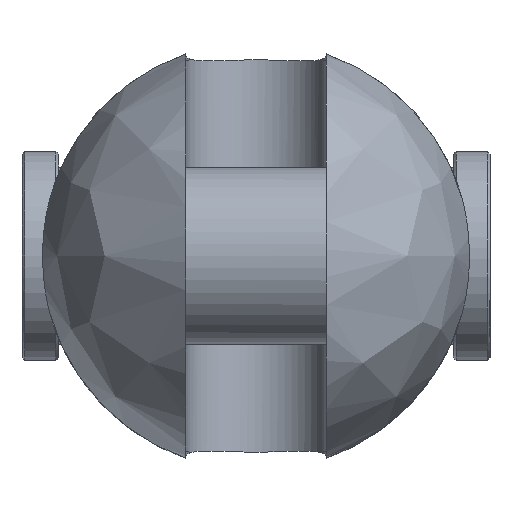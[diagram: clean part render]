
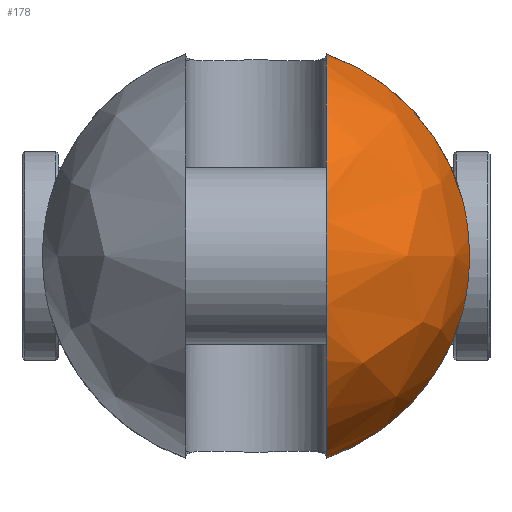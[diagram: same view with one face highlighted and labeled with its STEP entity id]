
A CAD part, left-side view. The second image highlights one B-rep face of the part: STEP entity #178.
In plain terms, the highlighted free-form (B-spline) face has degree [2, 2] with [9, 5] control points.
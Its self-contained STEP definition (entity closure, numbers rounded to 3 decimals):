
#178=ADVANCED_FACE('',(#318),#2409,.T.);
#318=FACE_OUTER_BOUND('',#478,.T.);
#478=EDGE_LOOP('',(#1189,#1190,#1191,#1192));
#1189=ORIENTED_EDGE('',*,*,#1569,.T.);
#1190=ORIENTED_EDGE('',*,*,#1597,.F.);
#1191=ORIENTED_EDGE('',*,*,#1609,.T.);
#1192=ORIENTED_EDGE('',*,*,#1589,.F.);
#1569=EDGE_CURVE('',#2242,#2241,#1976,.T.);
#1589=EDGE_CURVE('',#2242,#2254,#1986,.T.);
#1597=EDGE_CURVE('',#2261,#2241,#1987,.T.);
#1609=EDGE_CURVE('',#2261,#2254,#1782,.T.);
#1782=B_SPLINE_CURVE_WITH_KNOTS('',3,(#6079,#6080,#6081,#6082,#6083,#6084,
#6085,#6086,#6087,#6088,#6089,#6090,#6091,#6092),.UNSPECIFIED.,.F.,.F.,
(4,2,2,2,2,2,4),(0.,1.609,6.551,11.494,16.437,
21.379,22.988),.UNSPECIFIED.);
#1976=(
BOUNDED_CURVE()
B_SPLINE_CURVE(2,(#5855,#5856,#5857,#5858,#5859),.UNSPECIFIED.,.F.,.F.)
B_SPLINE_CURVE_WITH_KNOTS((3,2,3),(-121.623,-60.811,0.),
 .UNSPECIFIED.)
CURVE()
GEOMETRIC_REPRESENTATION_ITEM()
RATIONAL_B_SPLINE_CURVE((1.,0.707,1.,0.707,1.))
REPRESENTATION_ITEM('')
);
#1986=(
BOUNDED_CURVE()
B_SPLINE_CURVE(2,(#5949,#5950,#5951),.UNSPECIFIED.,.F.,.F.)
B_SPLINE_CURVE_WITH_KNOTS((3,3),(0.,39.7),.UNSPECIFIED.)
CURVE()
GEOMETRIC_REPRESENTATION_ITEM()
RATIONAL_B_SPLINE_CURVE((1.,0.885,1.))
REPRESENTATION_ITEM('')
);
#1987=(
BOUNDED_CURVE()
B_SPLINE_CURVE(2,(#6006,#6007,#6008),.UNSPECIFIED.,.F.,.F.)
B_SPLINE_CURVE_WITH_KNOTS((3,3),(0.,39.7),.UNSPECIFIED.)
CURVE()
GEOMETRIC_REPRESENTATION_ITEM()
RATIONAL_B_SPLINE_CURVE((1.,0.885,1.))
REPRESENTATION_ITEM('')
);
#2241=VERTEX_POINT('',#5739);
#2242=VERTEX_POINT('',#5740);
#2254=VERTEX_POINT('',#5752);
#2261=VERTEX_POINT('',#5759);
#2409=(
BOUNDED_SURFACE()
B_SPLINE_SURFACE(2,2,((#5453,#5454,#5455,#5456,#5457),(#5458,#5459,#5460,
#5461,#5462),(#5463,#5464,#5465,#5466,#5467),(#5468,#5469,#5470,#5471,#5472),
(#5473,#5474,#5475,#5476,#5477),(#5478,#5479,#5480,#5481,#5482),(#5483,
#5484,#5485,#5486,#5487),(#5488,#5489,#5490,#5491,#5492),(#5493,#5494,#5495,
#5496,#5497)),.UNSPECIFIED.,.T.,.F.,.F.)
B_SPLINE_SURFACE_WITH_KNOTS((3,2,2,2,3),(3,2,3),(0.,64.403,128.805,
193.208,257.611),(0.,64.403,128.805),
 .UNSPECIFIED.)
GEOMETRIC_REPRESENTATION_ITEM()
RATIONAL_B_SPLINE_SURFACE(((1.,0.707,1.,0.707,1.),
(0.707,0.5,0.707,0.5,0.707),(1.,0.707,
1.,0.707,1.),(0.707,0.5,0.707,0.5,0.707),
(1.,0.707,1.,0.707,1.),(0.707,0.5,0.707,
0.5,0.707),(1.,0.707,1.,0.707,1.),(0.707,
0.5,0.707,0.5,0.707),(1.,0.707,1.,0.707,
1.)))
REPRESENTATION_ITEM('')
SURFACE()
);
#5453=CARTESIAN_POINT('',(-59.,0.,0.));
#5454=CARTESIAN_POINT('',(-59.,41.,0.));
#5455=CARTESIAN_POINT('',(-18.,41.,0.));
#5456=CARTESIAN_POINT('',(23.,41.,0.));
#5457=CARTESIAN_POINT('',(23.,0.,0.));
#5458=CARTESIAN_POINT('',(-59.,0.,0.));
#5459=CARTESIAN_POINT('',(-59.,41.,41.));
#5460=CARTESIAN_POINT('',(-18.,41.,41.));
#5461=CARTESIAN_POINT('',(23.,41.,41.));
#5462=CARTESIAN_POINT('',(23.,0.,0.));
#5463=CARTESIAN_POINT('',(-59.,0.,0.));
#5464=CARTESIAN_POINT('',(-59.,0.,41.));
#5465=CARTESIAN_POINT('',(-18.,0.,41.));
#5466=CARTESIAN_POINT('',(23.,0.,41.));
#5467=CARTESIAN_POINT('',(23.,0.,0.));
#5468=CARTESIAN_POINT('',(-59.,0.,0.));
#5469=CARTESIAN_POINT('',(-59.,-41.,41.));
#5470=CARTESIAN_POINT('',(-18.,-41.,41.));
#5471=CARTESIAN_POINT('',(23.,-41.,41.));
#5472=CARTESIAN_POINT('',(23.,0.,0.));
#5473=CARTESIAN_POINT('',(-59.,0.,0.));
#5474=CARTESIAN_POINT('',(-59.,-41.,0.));
#5475=CARTESIAN_POINT('',(-18.,-41.,0.));
#5476=CARTESIAN_POINT('',(23.,-41.,0.));
#5477=CARTESIAN_POINT('',(23.,0.,0.));
#5478=CARTESIAN_POINT('',(-59.,0.,0.));
#5479=CARTESIAN_POINT('',(-59.,-41.,-41.));
#5480=CARTESIAN_POINT('',(-18.,-41.,-41.));
#5481=CARTESIAN_POINT('',(23.,-41.,-41.));
#5482=CARTESIAN_POINT('',(23.,0.,0.));
#5483=CARTESIAN_POINT('',(-59.,0.,0.));
#5484=CARTESIAN_POINT('',(-59.,0.,-41.));
#5485=CARTESIAN_POINT('',(-18.,0.,-41.));
#5486=CARTESIAN_POINT('',(23.,0.,-41.));
#5487=CARTESIAN_POINT('',(23.,0.,0.));
#5488=CARTESIAN_POINT('',(-59.,0.,0.));
#5489=CARTESIAN_POINT('',(-59.,41.,-41.));
#5490=CARTESIAN_POINT('',(-18.,41.,-41.));
#5491=CARTESIAN_POINT('',(23.,41.,-41.));
#5492=CARTESIAN_POINT('',(23.,0.,0.));
#5493=CARTESIAN_POINT('',(-59.,0.,0.));
#5494=CARTESIAN_POINT('',(-59.,41.,0.));
#5495=CARTESIAN_POINT('',(-18.,41.,0.));
#5496=CARTESIAN_POINT('',(23.,41.,0.));
#5497=CARTESIAN_POINT('',(23.,0.,0.));
#5739=CARTESIAN_POINT('',(-18.,-13.5,-38.714));
#5740=CARTESIAN_POINT('',(-18.,-13.5,38.714));
#5752=CARTESIAN_POINT('',(-18.,-39.547,10.817));
#5759=CARTESIAN_POINT('',(-18.,-39.547,-10.817));
#5855=CARTESIAN_POINT('',(-18.,-13.5,38.714));
#5856=CARTESIAN_POINT('',(-56.714,-13.5,38.714));
#5857=CARTESIAN_POINT('',(-56.714,-13.5,0.));
#5858=CARTESIAN_POINT('',(-56.714,-13.5,-38.714));
#5859=CARTESIAN_POINT('',(-18.,-13.5,-38.714));
#5949=CARTESIAN_POINT('',(-18.,-13.5,38.714));
#5950=CARTESIAN_POINT('',(-18.,-33.859,31.614));
#5951=CARTESIAN_POINT('',(-18.,-39.547,10.817));
#6006=CARTESIAN_POINT('',(-18.,-39.547,-10.817));
#6007=CARTESIAN_POINT('',(-18.,-33.859,-31.614));
#6008=CARTESIAN_POINT('',(-18.,-13.5,-38.714));
#6079=CARTESIAN_POINT('',(-18.,-39.547,-10.817));
#6080=CARTESIAN_POINT('',(-18.272,-39.671,-10.364));
#6081=CARTESIAN_POINT('',(-18.528,-39.787,-9.9));
#6082=CARTESIAN_POINT('',(-19.498,-40.225,-7.968));
#6083=CARTESIAN_POINT('',(-20.064,-40.476,-6.412));
#6084=CARTESIAN_POINT('',(-20.815,-40.809,-3.226));
#6085=CARTESIAN_POINT('',(-21.,-40.89,-1.596));
#6086=CARTESIAN_POINT('',(-21.,-40.89,1.596));
#6087=CARTESIAN_POINT('',(-20.815,-40.809,3.226));
#6088=CARTESIAN_POINT('',(-20.064,-40.476,6.412));
#6089=CARTESIAN_POINT('',(-19.498,-40.225,7.968));
#6090=CARTESIAN_POINT('',(-18.528,-39.787,9.9));
#6091=CARTESIAN_POINT('',(-18.272,-39.671,10.364));
#6092=CARTESIAN_POINT('',(-18.,-39.547,10.817));
